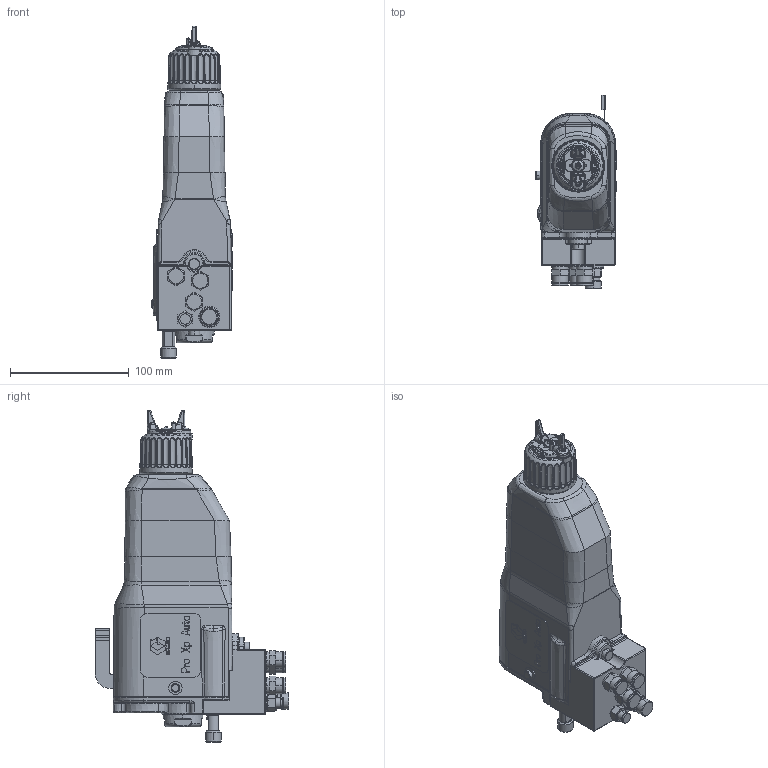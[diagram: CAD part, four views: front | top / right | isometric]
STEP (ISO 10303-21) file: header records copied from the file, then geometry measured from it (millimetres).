
FILE_DESCRIPTION((''),'2;1');
FILE_NAME('HA2M10-EN-G_PRT','2020-01-01T12:06:15',('qusrh3'),(''),'CREO PARAMETRIC BY PTC INC, 2019030','CREO PARAMETRIC BY PTC INC, 2019030','');
FILE_SCHEMA(('CONFIG_CONTROL_DESIGN'));
Products named in the file (1): HA2M10-EN-G_PRT
Bounding box: 67.94 x 162.79 x 279.17 mm (x, y, z)
Surface area: 105856.5 mm2 (no closed solid volume)
Topology: 0 solids, 93 shells, 1368 faces, 4024 edges, 2716 vertices
Faces by surface type: plane 590, bspline 354, cylinder 184, cone 98, torus 66, extrusion 45, sphere 31
Entity records: 69765 total; most frequent: CARTESIAN_POINT 37265, ORIENTED_EDGE 6758, DIRECTION 5740, EDGE_CURVE 4022, VERTEX_POINT 2716, VECTOR 2158, LINE 2113, AXIS2_PLACEMENT_3D 1791
